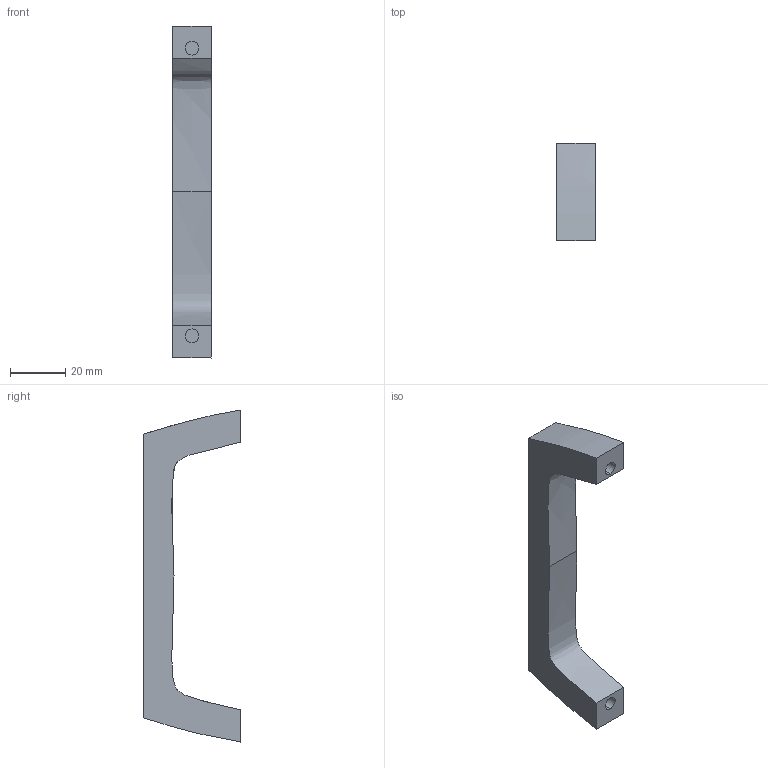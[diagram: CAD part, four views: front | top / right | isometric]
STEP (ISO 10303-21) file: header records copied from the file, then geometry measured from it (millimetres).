
FILE_DESCRIPTION (( 'STEP AP203' ), '1' );
FILE_NAME ('XG01-09.STEP', '2024-03-12T02:01:09', ( '' ), ( '' ), 'SwSTEP 2.0', 'SolidWorks 2020', '' );
FILE_SCHEMA (( 'CONFIG_CONTROL_DESIGN' ));
Length unit declared in the file: millimetre
Products named in the file (1): XG01-09
Bounding box: 14 x 35 x 120 mm (x, y, z)
Volume: 23630.2 mm3; surface area: 8325.5 mm2
Topology: 1 solids, 1 shells, 15 faces, 33 edges, 22 vertices
Faces by surface type: plane 7, cylinder 4, bspline 4
Entity records: 560 total; most frequent: CARTESIAN_POINT 167, ORIENTED_EDGE 66, DIRECTION 57, EDGE_CURVE 33, VERTEX_POINT 22, AXIS2_PLACEMENT_3D 20, EDGE_LOOP 17, VECTOR 17
